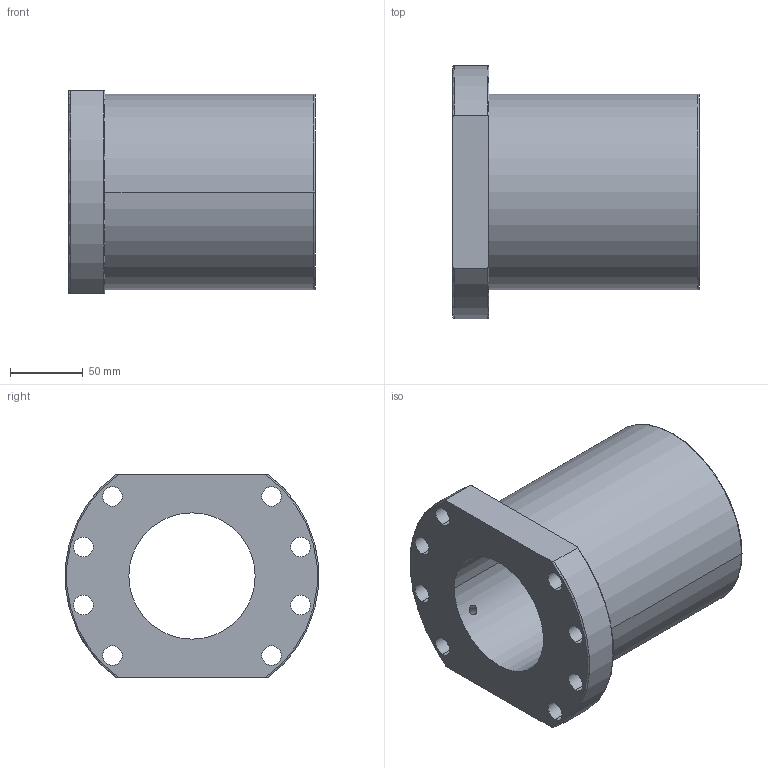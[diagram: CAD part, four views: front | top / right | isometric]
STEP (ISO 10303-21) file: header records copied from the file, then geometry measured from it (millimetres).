
FILE_DESCRIPTION((''),'2;1');
FILE_NAME('A10KT2B2','2009-07-10T',('wuteng'),(''),'PRO/ENGINEER BY PARAMETRIC TECHNOLOGY CORPORATION, 2005070','PRO/ENGINEER BY PARAMETRIC TECHNOLOGY CORPORATION, 2005070','');
FILE_SCHEMA(('CONFIG_CONTROL_DESIGN'));
Length unit declared in the file: millimetre
Products named in the file (1): A10KT2B2
Bounding box: 170 x 174.38 x 140 mm (x, y, z)
Volume: 1573191.2 mm3; surface area: 159130.1 mm2
Topology: 1 solids, 1 shells, 35 faces, 94 edges, 62 vertices
Faces by surface type: cylinder 24, torus 6, plane 5
Entity records: 1284 total; most frequent: CARTESIAN_POINT 297, DIRECTION 204, ORIENTED_EDGE 188, EDGE_CURVE 94, AXIS2_PLACEMENT_3D 87, VERTEX_POINT 62, EDGE_LOOP 56, CIRCLE 52
